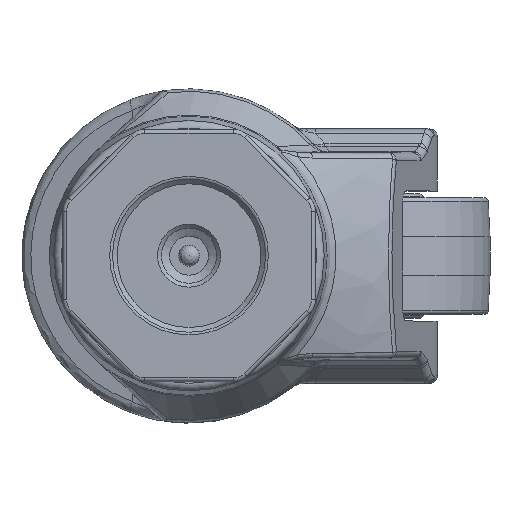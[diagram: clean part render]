
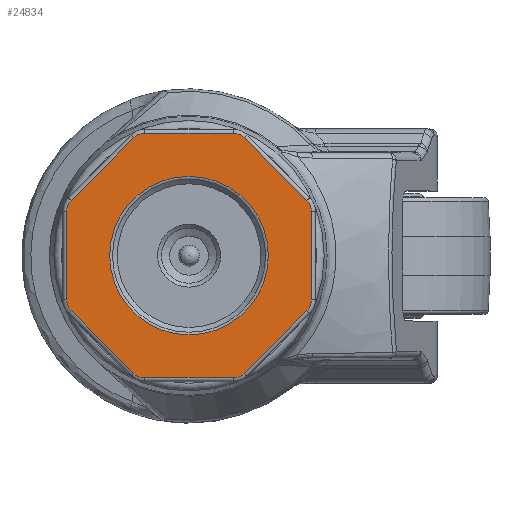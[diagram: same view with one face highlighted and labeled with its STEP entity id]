
A CAD part, top view. The second image highlights one B-rep face of the part: STEP entity #24834.
In plain terms, the highlighted planar face has unit normal (0, 0, 1).
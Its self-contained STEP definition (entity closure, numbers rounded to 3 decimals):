
#24523=CARTESIAN_POINT('',(20.231,189.32,46.65));
#24524=VERTEX_POINT('',#24523);
#24543=CARTESIAN_POINT('',(17.403,188.149,46.65));
#24544=VERTEX_POINT('',#24543);
#24552=CARTESIAN_POINT('',(20.231,185.32,46.65));
#24553=DIRECTION('',(0.,0.,-1.0));
#24554=DIRECTION('',(-0.383,0.924,0.));
#24555=AXIS2_PLACEMENT_3D('',#24552,#24553,#24554);
#24556=CIRCLE('',#24555,4.);
#24557=EDGE_CURVE('',#24544,#24524,#24556,.T.);
#24678=CARTESIAN_POINT('',(43.013,189.32,46.65));
#24679=VERTEX_POINT('',#24678);
#24680=CARTESIAN_POINT('',(20.231,189.32,46.65));
#24681=DIRECTION('',(1.0,0.0,0.0));
#24682=VECTOR('',#24681,22.782);
#24683=LINE('',#24680,#24682);
#24684=EDGE_CURVE('',#24524,#24679,#24683,.T.);
#24697=CARTESIAN_POINT('',(31.622,157.82,46.65));
#24698=DIRECTION('',(0.0,0.0,1.0));
#24699=DIRECTION('',(1.0,0.0,0.0));
#24700=AXIS2_PLACEMENT_3D('',#24697,#24698,#24699);
#24701=PLANE('',#24700);
#24702=ORIENTED_EDGE('',*,*,#24557,.F.);
#24703=CARTESIAN_POINT('',(1.294,172.04,46.65));
#24704=VERTEX_POINT('',#24703);
#24705=CARTESIAN_POINT('',(1.294,172.04,46.65));
#24706=DIRECTION('',(0.707,0.707,0.0));
#24707=VECTOR('',#24706,22.782);
#24708=LINE('',#24705,#24707);
#24709=EDGE_CURVE('',#24704,#24544,#24708,.T.);
#24710=ORIENTED_EDGE('',*,*,#24709,.F.);
#24711=CARTESIAN_POINT('',(0.122,169.211,46.65));
#24712=VERTEX_POINT('',#24711);
#24713=CARTESIAN_POINT('',(4.122,169.211,46.65));
#24714=DIRECTION('',(0.,0.,-1.));
#24715=DIRECTION('',(-0.924,0.383,0.));
#24716=AXIS2_PLACEMENT_3D('',#24713,#24714,#24715);
#24717=CIRCLE('',#24716,4.);
#24718=EDGE_CURVE('',#24712,#24704,#24717,.T.);
#24719=ORIENTED_EDGE('',*,*,#24718,.F.);
#24720=CARTESIAN_POINT('',(0.122,146.429,46.65));
#24721=VERTEX_POINT('',#24720);
#24722=CARTESIAN_POINT('',(0.122,146.429,46.65));
#24723=DIRECTION('',(0.0,1.0,0.0));
#24724=VECTOR('',#24723,22.782);
#24725=LINE('',#24722,#24724);
#24726=EDGE_CURVE('',#24721,#24712,#24725,.T.);
#24727=ORIENTED_EDGE('',*,*,#24726,.F.);
#24728=CARTESIAN_POINT('',(1.294,143.601,46.65));
#24729=VERTEX_POINT('',#24728);
#24730=CARTESIAN_POINT('',(4.122,146.429,46.65));
#24731=DIRECTION('',(0.,0.,-1.));
#24732=DIRECTION('',(-0.924,-0.383,0.));
#24733=AXIS2_PLACEMENT_3D('',#24730,#24731,#24732);
#24734=CIRCLE('',#24733,4.);
#24735=EDGE_CURVE('',#24729,#24721,#24734,.T.);
#24736=ORIENTED_EDGE('',*,*,#24735,.F.);
#24737=CARTESIAN_POINT('',(17.403,127.492,46.65));
#24738=VERTEX_POINT('',#24737);
#24739=CARTESIAN_POINT('',(17.403,127.492,46.65));
#24740=DIRECTION('',(-0.707,0.707,0.0));
#24741=VECTOR('',#24740,22.782);
#24742=LINE('',#24739,#24741);
#24743=EDGE_CURVE('',#24738,#24729,#24742,.T.);
#24744=ORIENTED_EDGE('',*,*,#24743,.F.);
#24745=CARTESIAN_POINT('',(20.231,126.32,46.65));
#24746=VERTEX_POINT('',#24745);
#24747=CARTESIAN_POINT('',(20.231,130.32,46.65));
#24748=DIRECTION('',(0.,0.,-1.));
#24749=DIRECTION('',(-0.383,-0.924,0.));
#24750=AXIS2_PLACEMENT_3D('',#24747,#24748,#24749);
#24751=CIRCLE('',#24750,4.);
#24752=EDGE_CURVE('',#24746,#24738,#24751,.T.);
#24753=ORIENTED_EDGE('',*,*,#24752,.F.);
#24754=CARTESIAN_POINT('',(43.013,126.32,46.65));
#24755=VERTEX_POINT('',#24754);
#24756=CARTESIAN_POINT('',(43.013,126.32,46.65));
#24757=DIRECTION('',(-1.0,0.0,0.0));
#24758=VECTOR('',#24757,22.782);
#24759=LINE('',#24756,#24758);
#24760=EDGE_CURVE('',#24755,#24746,#24759,.T.);
#24761=ORIENTED_EDGE('',*,*,#24760,.F.);
#24762=CARTESIAN_POINT('',(45.841,127.492,46.65));
#24763=VERTEX_POINT('',#24762);
#24764=CARTESIAN_POINT('',(43.013,130.32,46.65));
#24765=DIRECTION('',(0.,0.,-1.0));
#24766=DIRECTION('',(0.383,-0.924,0.));
#24767=AXIS2_PLACEMENT_3D('',#24764,#24765,#24766);
#24768=CIRCLE('',#24767,4.);
#24769=EDGE_CURVE('',#24763,#24755,#24768,.T.);
#24770=ORIENTED_EDGE('',*,*,#24769,.F.);
#24771=CARTESIAN_POINT('',(61.95,143.601,46.65));
#24772=VERTEX_POINT('',#24771);
#24773=CARTESIAN_POINT('',(61.95,143.601,46.65));
#24774=DIRECTION('',(-0.707,-0.707,0.0));
#24775=VECTOR('',#24774,22.782);
#24776=LINE('',#24773,#24775);
#24777=EDGE_CURVE('',#24772,#24763,#24776,.T.);
#24778=ORIENTED_EDGE('',*,*,#24777,.F.);
#24779=CARTESIAN_POINT('',(63.122,146.429,46.65));
#24780=VERTEX_POINT('',#24779);
#24781=CARTESIAN_POINT('',(59.122,146.429,46.65));
#24782=DIRECTION('',(0.,0.,-1.0));
#24783=DIRECTION('',(0.924,-0.383,0.));
#24784=AXIS2_PLACEMENT_3D('',#24781,#24782,#24783);
#24785=CIRCLE('',#24784,4.);
#24786=EDGE_CURVE('',#24780,#24772,#24785,.T.);
#24787=ORIENTED_EDGE('',*,*,#24786,.F.);
#24788=CARTESIAN_POINT('',(63.122,169.211,46.65));
#24789=VERTEX_POINT('',#24788);
#24790=CARTESIAN_POINT('',(63.122,169.211,46.65));
#24791=DIRECTION('',(0.0,-1.0,0.0));
#24792=VECTOR('',#24791,22.782);
#24793=LINE('',#24790,#24792);
#24794=EDGE_CURVE('',#24789,#24780,#24793,.T.);
#24795=ORIENTED_EDGE('',*,*,#24794,.F.);
#24796=CARTESIAN_POINT('',(61.95,172.04,46.65));
#24797=VERTEX_POINT('',#24796);
#24798=CARTESIAN_POINT('',(59.122,169.211,46.65));
#24799=DIRECTION('',(0.,0.,-1.));
#24800=DIRECTION('',(0.924,0.383,0.));
#24801=AXIS2_PLACEMENT_3D('',#24798,#24799,#24800);
#24802=CIRCLE('',#24801,4.);
#24803=EDGE_CURVE('',#24797,#24789,#24802,.T.);
#24804=ORIENTED_EDGE('',*,*,#24803,.F.);
#24805=CARTESIAN_POINT('',(45.841,188.149,46.65));
#24806=VERTEX_POINT('',#24805);
#24807=CARTESIAN_POINT('',(45.841,188.149,46.65));
#24808=DIRECTION('',(0.707,-0.707,0.0));
#24809=VECTOR('',#24808,22.782);
#24810=LINE('',#24807,#24809);
#24811=EDGE_CURVE('',#24806,#24797,#24810,.T.);
#24812=ORIENTED_EDGE('',*,*,#24811,.F.);
#24813=CARTESIAN_POINT('',(43.013,185.32,46.65));
#24814=DIRECTION('',(0.,0.,-1.0));
#24815=DIRECTION('',(0.383,0.924,0.));
#24816=AXIS2_PLACEMENT_3D('',#24813,#24814,#24815);
#24817=CIRCLE('',#24816,4.);
#24818=EDGE_CURVE('',#24679,#24806,#24817,.T.);
#24819=ORIENTED_EDGE('',*,*,#24818,.F.);
#24820=ORIENTED_EDGE('',*,*,#24684,.F.);
#24821=EDGE_LOOP('',(#24702,#24710,#24719,#24727,#24736,#24744,#24753,#24761,#24770,#24778,#24787,#24795,#24804,#24812,#24819,#24820));
#24822=FACE_OUTER_BOUND('',#24821,.T.);
#24823=CARTESIAN_POINT('',(11.208,157.82,46.65));
#24824=VERTEX_POINT('',#24823);
#24825=CARTESIAN_POINT('',(31.622,157.82,46.65));
#24826=DIRECTION('',(0.0,0.0,1.0));
#24827=DIRECTION('',(1.0,0.0,0.0));
#24828=AXIS2_PLACEMENT_3D('',#24825,#24826,#24827);
#24829=CIRCLE('',#24828,20.414);
#24830=EDGE_CURVE('',#24824,#24824,#24829,.T.);
#24831=ORIENTED_EDGE('',*,*,#24830,.F.);
#24832=EDGE_LOOP('',(#24831));
#24833=FACE_BOUND('',#24832,.T.);
#24834=ADVANCED_FACE('',(#24822,#24833),#24701,.T.);
